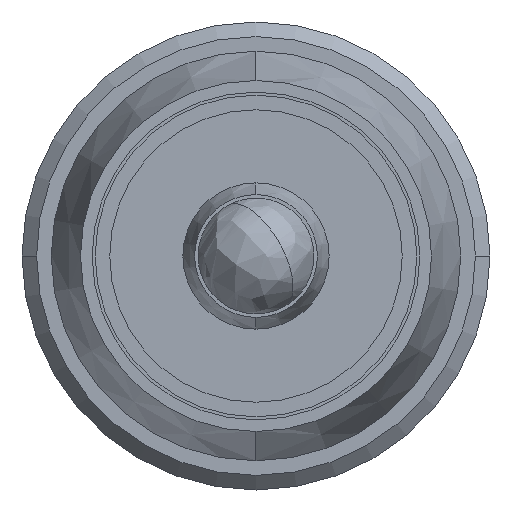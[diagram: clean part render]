
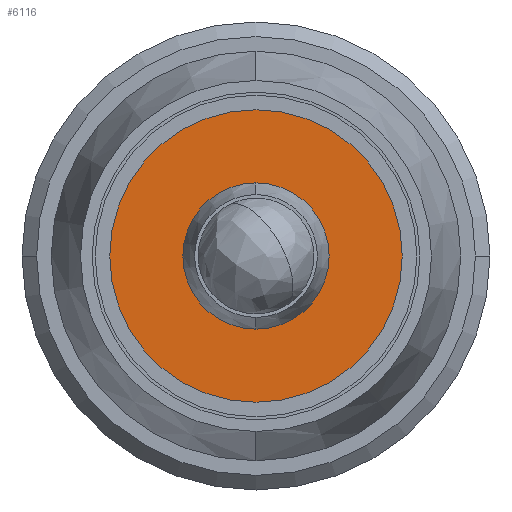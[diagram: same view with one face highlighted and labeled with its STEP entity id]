
A CAD part, left-side view. The second image highlights one B-rep face of the part: STEP entity #6116.
In plain terms, the highlighted planar face has unit normal (-1, 0, 0).
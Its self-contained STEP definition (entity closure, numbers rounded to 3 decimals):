
#718 = EDGE_CURVE ( 'NONE', #719, #720, #5309, .T. ) ;
#719 = VERTEX_POINT ( 'NONE', #5305 ) ;
#720 = VERTEX_POINT ( 'NONE', #5304 ) ;
#758 = EDGE_CURVE ( 'NONE', #791, #784, #5374, .T. ) ;
#784 = VERTEX_POINT ( 'NONE', #5454 ) ;
#791 = VERTEX_POINT ( 'NONE', #5436 ) ;
#4525 = DIRECTION ( 'NONE',  ( 0., 1., 0. ) ) ;
#4526 = DIRECTION ( 'NONE',  ( 1., 0., 0. ) ) ;
#4527 = CARTESIAN_POINT ( 'NONE',  ( -106.398, -3.1, 35.126 ) ) ;
#4528 = AXIS2_PLACEMENT_3D ( 'NONE', #4527, #4526, #4525 ) ;
#4529 = CIRCLE ( 'NONE', #4528, 5. ) ;
#4610 = DIRECTION ( 'NONE',  ( 0., -1., 0. ) ) ;
#4611 = DIRECTION ( 'NONE',  ( -1., 0., 0. ) ) ;
#4612 = CARTESIAN_POINT ( 'NONE',  ( -106.398, 0.508, 36.15 ) ) ;
#4613 = AXIS2_PLACEMENT_3D ( 'NONE', #4612, #4611, #4610 ) ;
#4614 = PLANE ( 'NONE',  #4613 ) ;
#4615 = FACE_OUTER_BOUND ( 'NONE', #6028, .T. ) ;
#4616 = FACE_BOUND ( 'NONE', #6117, .T. ) ;
#4754 = DIRECTION ( 'NONE',  ( 0., 1., 0. ) ) ;
#4755 = DIRECTION ( 'NONE',  ( 1., 0., 0. ) ) ;
#4756 = AXIS2_PLACEMENT_3D ( 'NONE', #4762, #4755, #4754 ) ;
#4757 = CIRCLE ( 'NONE', #4756, 2.5 ) ;
#4762 = CARTESIAN_POINT ( 'NONE',  ( -106.398, -3.1, 35.126 ) ) ;
#5304 = CARTESIAN_POINT ( 'NONE',  ( -106.398, -0.6, 35.126 ) ) ;
#5305 = CARTESIAN_POINT ( 'NONE',  ( -106.398, -5.6, 35.126 ) ) ;
#5306 = DIRECTION ( 'NONE',  ( 0., 1., 0. ) ) ;
#5307 = DIRECTION ( 'NONE',  ( 1., 0., 0. ) ) ;
#5308 = AXIS2_PLACEMENT_3D ( 'NONE', #5314, #5307, #5306 ) ;
#5309 = CIRCLE ( 'NONE', #5308, 2.5 ) ;
#5314 = CARTESIAN_POINT ( 'NONE',  ( -106.398, -3.1, 35.126 ) ) ;
#5370 = DIRECTION ( 'NONE',  ( 0., 1., 0. ) ) ;
#5371 = DIRECTION ( 'NONE',  ( 1., 0., 0. ) ) ;
#5372 = CARTESIAN_POINT ( 'NONE',  ( -106.398, -3.1, 35.126 ) ) ;
#5373 = AXIS2_PLACEMENT_3D ( 'NONE', #5372, #5371, #5370 ) ;
#5374 = CIRCLE ( 'NONE', #5373, 5. ) ;
#5436 = CARTESIAN_POINT ( 'NONE',  ( -106.398, 1.9, 35.126 ) ) ;
#5454 = CARTESIAN_POINT ( 'NONE',  ( -106.398, -8.1, 35.126 ) ) ;
#6027 = ORIENTED_EDGE ( 'NONE', *, *, #718, .T. ) ;
#6028 = EDGE_LOOP ( 'NONE', ( #6029, #6030 ) ) ;
#6029 = ORIENTED_EDGE ( 'NONE', *, *, #758, .F. ) ;
#6030 = ORIENTED_EDGE ( 'NONE', *, *, #6031, .F. ) ;
#6031 = EDGE_CURVE ( 'NONE', #784, #791, #4529, .T. ) ;
#6116 = ADVANCED_FACE ( 'NONE', ( #4616, #4615 ), #4614, .T. ) ;
#6117 = EDGE_LOOP ( 'NONE', ( #6118, #6027 ) ) ;
#6118 = ORIENTED_EDGE ( 'NONE', *, *, #6218, .T. ) ;
#6218 = EDGE_CURVE ( 'NONE', #720, #719, #4757, .T. ) ;
